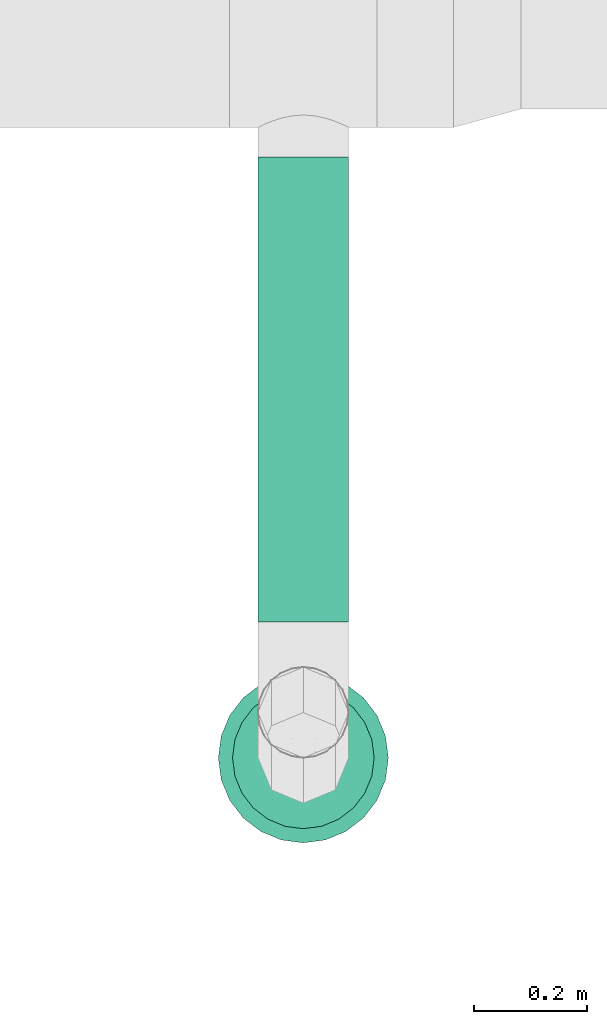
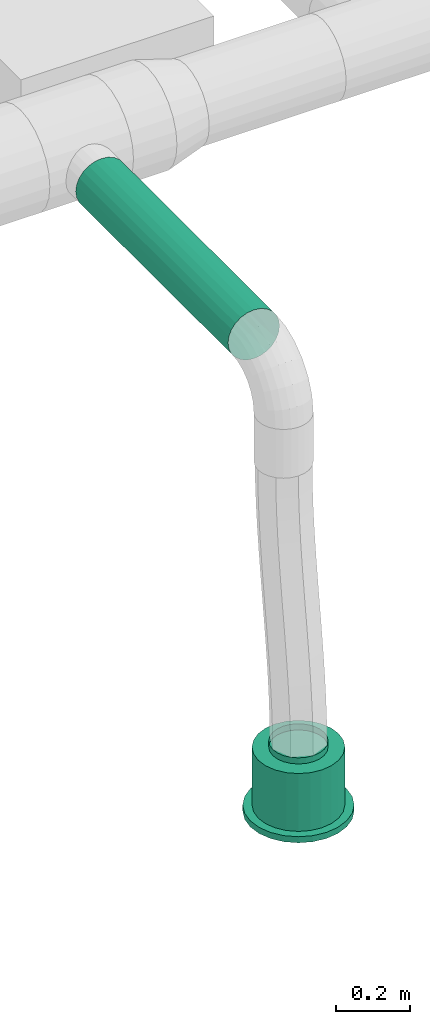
# One storey, part 96 of 374: 1 flow segment, 1 flow terminal.
"""IFC2X3 building model written with IfcOpenShell, lengths in metres."""

from ifc_helpers import new_model, si_unit, direction, origin, place, context, subcontext, project, spatial, open_shell, surface_model, source, transform, mapped, element, save


model = new_model("IFC2X3")

# Units and contexts
model_context = context("Model", 3, precision=1e-05, world=origin(), true_north=direction((-0.4480736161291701, 0.8939966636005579)))
body_context = subcontext(model_context, "Body", "Model", "MODEL_VIEW")
ifc_project = project(units=[si_unit("LENGTHUNIT", "METRE"), si_unit("AREAUNIT", "SQUARE_METRE"), si_unit("VOLUMEUNIT", "CUBIC_METRE"), si_unit("PLANEANGLEUNIT", "RADIAN"), si_unit("THERMODYNAMICTEMPERATUREUNIT", "KELVIN"), si_unit("MASSUNIT", "GRAM", prefix="KILO"), si_unit("TIMEUNIT", "SECOND")], contexts=[model_context])

# Site, building, storey
site_placement = place(None, origin())
site = spatial("IfcSite", under=ifc_project, at=site_placement, Name="Site 1", CompositionType="ELEMENT")
building_placement = place(site_placement, origin())
building = spatial("IfcBuilding", under=site, at=building_placement, Name="Undefined", CompositionType="ELEMENT")
storey_placement = place(building_placement, origin())
storey = spatial("IfcBuildingStorey", under=building, at=storey_placement, Name="Rez de chauss\x8ee", CompositionType="ELEMENT", Elevation=0.0)

# Flow terminal
shared_shape_1 = source(origin(), body_context, "Body", "SurfaceModel", [
    surface_model("IfcFaceBasedSurfaceModel", [(0.0, 0.0, 0.0), (0.03915785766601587, 0.0, 0.0), (0.03915785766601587, 0.020000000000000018, 0.0), (3.552713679e-15, 0.020000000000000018, 0.0), (0.07698144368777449, 0.0, -0.010134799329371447), (0.07698144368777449, 0.020000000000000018, -0.010134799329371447), (0.11089314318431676, 0.0, -0.02971372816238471), (0.11089314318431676, 0.020000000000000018, -0.02971372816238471), (0.13858192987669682, 0.0, -0.05740251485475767), (0.13858192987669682, 0.020000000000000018, -0.05740251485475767), (0.15816085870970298, 0.0, -0.09131421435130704), (0.15816085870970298, 0.020000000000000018, -0.09131421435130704), (0.16829565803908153, 0.0, -0.12913780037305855), (0.16829565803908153, 0.020000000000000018, -0.12913780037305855), (0.16829565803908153, 0.0, -0.16829565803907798), (0.16829565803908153, 0.020000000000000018, -0.16829565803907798), (0.15816085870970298, 0.0, -0.20611924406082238), (0.15816085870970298, 0.020000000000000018, -0.20611924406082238), (0.13858192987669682, 0.0, -0.24003094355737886), (0.13858192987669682, 0.020000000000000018, -0.24003094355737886), (0.11089314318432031, 0.0, -0.2677197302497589), (0.11089314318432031, 0.020000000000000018, -0.2677197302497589), (0.07698144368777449, 0.0, -0.2872986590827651), (0.07698144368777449, 0.020000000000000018, -0.2872986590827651), (0.039157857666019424, 0.0, -0.29743345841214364), (0.039157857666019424, 0.020000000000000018, -0.29743345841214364), (3.552713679e-15, 0.0, -0.29743345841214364), (3.552713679e-15, 0.020000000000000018, -0.29743345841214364), (-0.03782358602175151, 0.0, -0.2872986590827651), (-0.03782358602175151, 0.020000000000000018, -0.2872986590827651), (-0.07173528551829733, 0.0, -0.2677197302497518), (-0.07173528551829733, 0.020000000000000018, -0.2677197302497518), (-0.0994240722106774, 0.0, -0.24003094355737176), (-0.0994240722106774, 0.020000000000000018, -0.24003094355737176), (-0.11900300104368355, 0.0, -0.2061192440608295), (-0.11900300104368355, 0.020000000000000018, -0.2061192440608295), (-0.1291378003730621, 0.0, -0.16829565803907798), (-0.1291378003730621, 0.020000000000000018, -0.16829565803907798), (-0.1291378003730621, 0.0, -0.12913780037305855), (-0.1291378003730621, 0.020000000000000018, -0.12913780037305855), (-0.11900300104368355, 0.0, -0.09131421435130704), (-0.11900300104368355, 0.020000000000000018, -0.09131421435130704), (-0.0994240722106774, 0.0, -0.05740251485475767), (-0.0994240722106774, 0.020000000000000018, -0.05740251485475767), (-0.07173528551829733, 0.0, -0.029713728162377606), (-0.07173528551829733, 0.020000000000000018, -0.029713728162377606), (-0.03782358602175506, 0.0, -0.010134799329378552), (-0.03782358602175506, 0.020000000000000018, -0.010134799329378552), (0.019578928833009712, 0.0, -0.14871672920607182), (0.019578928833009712, 0.020000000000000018, -0.14871672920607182), (0.003263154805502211, 0.020000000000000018, -0.02478612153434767), (0.035894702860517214, 0.020000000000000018, -0.02478612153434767), (0.035894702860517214, 0.20999999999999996, -0.02478612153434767), (0.003263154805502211, 0.20999999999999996, -0.02478612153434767), (0.06741435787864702, 0.020000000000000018, -0.033231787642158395), (0.06741435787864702, 0.20999999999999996, -0.033231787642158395), (0.0956741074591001, 0.020000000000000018, -0.04954756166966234), (0.0956741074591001, 0.20999999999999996, -0.04954756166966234), (0.11874809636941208, 0.020000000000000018, -0.07262155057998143), (0.11874809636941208, 0.20999999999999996, -0.07262155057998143), (0.13506387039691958, 0.020000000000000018, -0.10088130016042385), (0.13506387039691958, 0.20999999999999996, -0.10088130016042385), (0.1435095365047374, 0.020000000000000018, -0.13240095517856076), (0.1435095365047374, 0.20999999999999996, -0.13240095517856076), (0.1435095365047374, 0.020000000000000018, -0.16503250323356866), (0.1435095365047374, 0.20999999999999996, -0.16503250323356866), (0.13506387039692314, 0.020000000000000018, -0.19655215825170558), (0.13506387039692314, 0.20999999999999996, -0.19655215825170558), (0.11874809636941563, 0.020000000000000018, -0.2248119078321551), (0.11874809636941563, 0.20999999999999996, -0.2248119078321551), (0.09567410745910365, 0.020000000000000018, -0.24788589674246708), (0.09567410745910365, 0.20999999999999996, -0.24788589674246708), (0.06741435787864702, 0.020000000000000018, -0.26420167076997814), (0.06741435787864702, 0.20999999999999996, -0.26420167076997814), (0.035894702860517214, 0.020000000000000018, -0.27264733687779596), (0.035894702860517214, 0.20999999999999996, -0.27264733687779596), (0.0032631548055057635, 0.020000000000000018, -0.27264733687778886), (0.0032631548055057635, 0.20999999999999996, -0.27264733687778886), (-0.028256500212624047, 0.020000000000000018, -0.26420167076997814), (-0.028256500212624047, 0.20999999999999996, -0.26420167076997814), (-0.05651624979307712, 0.020000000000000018, -0.2478858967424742), (-0.05651624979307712, 0.20999999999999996, -0.2478858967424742), (-0.07959023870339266, 0.020000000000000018, -0.2248119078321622), (-0.07959023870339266, 0.20999999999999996, -0.2248119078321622), (-0.09590601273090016, 0.020000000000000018, -0.19655215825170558), (-0.09590601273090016, 0.20999999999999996, -0.19655215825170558), (-0.10435167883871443, 0.020000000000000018, -0.16503250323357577), (-0.10435167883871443, 0.20999999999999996, -0.16503250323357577), (-0.10435167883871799, 0.020000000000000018, -0.13240095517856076), (-0.10435167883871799, 0.20999999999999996, -0.13240095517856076), (-0.09590601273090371, 0.020000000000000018, -0.10088130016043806), (-0.09590601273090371, 0.20999999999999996, -0.10088130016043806), (-0.07959023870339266, 0.020000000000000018, -0.07262155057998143), (-0.07959023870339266, 0.20999999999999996, -0.07262155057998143), (-0.056516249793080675, 0.020000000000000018, -0.04954756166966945), (-0.056516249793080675, 0.20999999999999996, -0.04954756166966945), (-0.028256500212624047, 0.020000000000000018, -0.033231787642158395), (-0.028256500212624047, 0.20999999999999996, -0.033231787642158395), (0.019578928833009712, 0.20999999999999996, -0.14871672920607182), (0.009136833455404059, 0.20999999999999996, -0.06940114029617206), (0.030021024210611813, 0.20999999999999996, -0.06940114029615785), (0.030021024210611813, 0.22999999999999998, -0.06940114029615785), (0.009136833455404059, 0.22999999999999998, -0.06940114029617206), (0.05019360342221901, 0.20999999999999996, -0.07480636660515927), (0.05019360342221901, 0.22999999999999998, -0.07480636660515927), (0.06827984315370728, 0.20999999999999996, -0.08524846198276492), (0.06827984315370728, 0.22999999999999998, -0.08524846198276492), (0.0830471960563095, 0.20999999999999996, -0.10001581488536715), (0.0830471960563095, 0.22999999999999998, -0.10001581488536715), (0.0934892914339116, 0.20999999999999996, -0.11810205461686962), (0.0934892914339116, 0.22999999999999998, -0.11810205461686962), (0.09889451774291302, 0.20999999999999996, -0.13827463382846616), (0.09889451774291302, 0.22999999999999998, -0.13827463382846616), (0.09889451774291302, 0.20999999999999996, -0.15915882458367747), (0.09889451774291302, 0.22999999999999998, -0.15915882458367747), (0.09348929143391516, 0.20999999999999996, -0.179331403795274), (0.09348929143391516, 0.22999999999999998, -0.179331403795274), (0.0830471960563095, 0.20999999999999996, -0.19741764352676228), (0.0830471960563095, 0.22999999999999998, -0.19741764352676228), (0.06827984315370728, 0.20999999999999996, -0.2121849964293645), (0.06827984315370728, 0.22999999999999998, -0.2121849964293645), (0.05019360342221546, 0.20999999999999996, -0.22262709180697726), (0.05019360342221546, 0.22999999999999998, -0.22262709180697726), (0.030021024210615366, 0.20999999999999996, -0.22803231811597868), (0.030021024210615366, 0.22999999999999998, -0.22803231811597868), (0.009136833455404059, 0.20999999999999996, -0.22803231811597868), (0.009136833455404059, 0.22999999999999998, -0.22803231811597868), (-0.011035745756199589, 0.20999999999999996, -0.22262709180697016), (-0.011035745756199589, 0.22999999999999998, -0.22262709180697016), (-0.0291219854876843, 0.20999999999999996, -0.2121849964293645), (-0.0291219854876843, 0.22999999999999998, -0.2121849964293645), (-0.043889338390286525, 0.20999999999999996, -0.19741764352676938), (-0.043889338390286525, 0.22999999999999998, -0.19741764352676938), (-0.05433143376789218, 0.20999999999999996, -0.17933140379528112), (-0.05433143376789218, 0.22999999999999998, -0.17933140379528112), (-0.05973666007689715, 0.20999999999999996, -0.15915882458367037), (-0.05973666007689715, 0.22999999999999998, -0.15915882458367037), (-0.0597366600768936, 0.20999999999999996, -0.13827463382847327), (-0.0597366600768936, 0.22999999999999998, -0.13827463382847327), (-0.05433143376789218, 0.20999999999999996, -0.11810205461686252), (-0.05433143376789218, 0.22999999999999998, -0.11810205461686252), (-0.043889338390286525, 0.20999999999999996, -0.10001581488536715), (-0.043889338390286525, 0.22999999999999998, -0.10001581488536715), (-0.02912198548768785, 0.20999999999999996, -0.08524846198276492), (-0.02912198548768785, 0.22999999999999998, -0.08524846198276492), (-0.011035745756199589, 0.20999999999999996, -0.07480636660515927), (-0.011035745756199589, 0.22999999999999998, -0.07480636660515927)], [open_shell([[[0, 1, 2, 3]], [[1, 4, 5, 2]], [[4, 6, 7, 5]], [[6, 8, 9, 7]], [[8, 10, 11, 9]], [[10, 12, 13, 11]], [[12, 14, 15, 13]], [[14, 16, 17, 15]], [[16, 18, 19, 17]], [[18, 20, 21, 19]], [[20, 22, 23, 21]], [[22, 24, 25, 23]], [[24, 26, 27, 25]], [[26, 28, 29, 27]], [[28, 30, 31, 29]], [[30, 32, 33, 31]], [[32, 34, 35, 33]], [[34, 36, 37, 35]], [[36, 38, 39, 37]], [[38, 40, 41, 39]], [[40, 42, 43, 41]], [[42, 44, 45, 43]], [[44, 46, 47, 45]], [[46, 0, 3, 47]], [[48, 1, 0]], [[48, 4, 1]], [[48, 6, 4]], [[48, 8, 6]], [[48, 10, 8]], [[48, 12, 10]], [[48, 14, 12]], [[48, 16, 14]], [[48, 18, 16]], [[48, 20, 18]], [[48, 22, 20]], [[48, 24, 22]], [[48, 26, 24]], [[48, 28, 26]], [[48, 30, 28]], [[48, 32, 30]], [[48, 34, 32]], [[48, 36, 34]], [[48, 38, 36]], [[48, 40, 38]], [[48, 42, 40]], [[48, 44, 42]], [[48, 46, 44]], [[48, 0, 46]], [[49, 47, 3]], [[49, 45, 47]], [[49, 43, 45]], [[49, 41, 43]], [[49, 39, 41]], [[49, 37, 39]], [[49, 35, 37]], [[49, 33, 35]], [[49, 31, 33]], [[49, 29, 31]], [[49, 27, 29]], [[49, 25, 27]], [[49, 23, 25]], [[49, 21, 23]], [[49, 19, 21]], [[49, 17, 19]], [[49, 15, 17]], [[49, 13, 15]], [[49, 11, 13]], [[49, 9, 11]], [[49, 7, 9]], [[49, 5, 7]], [[49, 2, 5]], [[49, 3, 2]], [[50, 51, 52, 53]], [[51, 54, 55, 52]], [[54, 56, 57, 55]], [[56, 58, 59, 57]], [[58, 60, 61, 59]], [[60, 62, 63, 61]], [[62, 64, 65, 63]], [[64, 66, 67, 65]], [[66, 68, 69, 67]], [[68, 70, 71, 69]], [[70, 72, 73, 71]], [[72, 74, 75, 73]], [[74, 76, 77, 75]], [[76, 78, 79, 77]], [[78, 80, 81, 79]], [[80, 82, 83, 81]], [[82, 84, 85, 83]], [[84, 86, 87, 85]], [[86, 88, 89, 87]], [[88, 90, 91, 89]], [[90, 92, 93, 91]], [[92, 94, 95, 93]], [[94, 96, 97, 95]], [[96, 50, 53, 97]], [[49, 51, 50]], [[49, 54, 51]], [[49, 56, 54]], [[49, 58, 56]], [[49, 60, 58]], [[49, 62, 60]], [[49, 64, 62]], [[49, 66, 64]], [[49, 68, 66]], [[49, 70, 68]], [[49, 72, 70]], [[49, 74, 72]], [[49, 76, 74]], [[49, 78, 76]], [[49, 80, 78]], [[49, 82, 80]], [[49, 84, 82]], [[49, 86, 84]], [[49, 88, 86]], [[49, 90, 88]], [[49, 92, 90]], [[49, 94, 92]], [[49, 96, 94]], [[49, 50, 96]], [[98, 97, 53]], [[98, 95, 97]], [[98, 93, 95]], [[98, 91, 93]], [[98, 89, 91]], [[98, 87, 89]], [[98, 85, 87]], [[98, 83, 85]], [[98, 81, 83]], [[98, 79, 81]], [[98, 77, 79]], [[98, 75, 77]], [[98, 73, 75]], [[98, 71, 73]], [[98, 69, 71]], [[98, 67, 69]], [[98, 65, 67]], [[98, 63, 65]], [[98, 61, 63]], [[98, 59, 61]], [[98, 57, 59]], [[98, 55, 57]], [[98, 52, 55]], [[98, 53, 52]], [[99, 100, 101, 102]], [[100, 103, 104, 101]], [[103, 105, 106, 104]], [[105, 107, 108, 106]], [[107, 109, 110, 108]], [[109, 111, 112, 110]], [[111, 113, 114, 112]], [[113, 115, 116, 114]], [[115, 117, 118, 116]], [[117, 119, 120, 118]], [[119, 121, 122, 120]], [[121, 123, 124, 122]], [[123, 125, 126, 124]], [[125, 127, 128, 126]], [[127, 129, 130, 128]], [[129, 131, 132, 130]], [[131, 133, 134, 132]], [[133, 135, 136, 134]], [[135, 137, 138, 136]], [[137, 139, 140, 138]], [[139, 141, 142, 140]], [[141, 143, 144, 142]], [[143, 145, 146, 144]], [[145, 99, 102, 146]]])]),
])
flow_terminal_placement = place(storey_placement, origin())
element("IfcFlowTerminal", 1, at=flow_terminal_placement, inside=storey, Name="Air diffuseur - bouche", ObjectType="Air diffuseur - bouche", context=body_context, shape_type="MappedRepresentation", body=[
    mapped(shared_shape_1, transform((60.2900038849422, 7.104998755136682, 2.38), x_axis=(-0.9914448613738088, -0.13052619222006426, 0.0), y_axis=(0.0, 0.0, 1.0), z_axis=(-0.13052619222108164, 0.9914448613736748, 0.0))),
])

# Flow segment
shared_shape_2 = source(origin(), body_context, "Body", "SurfaceModel", [
    surface_model("IfcFaceBasedSurfaceModel", [(0.0, 0.020884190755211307, 0.0), (0.0, 0.0, 0.0), (0.8200010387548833, 0.0, 4.4408921e-16), (0.8200010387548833, 0.020884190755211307, -4.4408921e-16), (0.0, -0.020172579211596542, -0.005405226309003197), (0.8200010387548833, -0.020172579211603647, -0.005405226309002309), (0.0, -0.03825881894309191, -0.015847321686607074), (0.8200010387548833, -0.038258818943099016, -0.01584732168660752), (0.0, -0.05302617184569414, -0.0306146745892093), (0.8200010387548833, -0.05302617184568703, -0.0306146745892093), (0.0, -0.06346826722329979, -0.04870091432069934), (0.8200010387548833, -0.06346826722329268, -0.04870091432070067), (0.0, -0.06887349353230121, -0.06887349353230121), (0.8200010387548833, -0.06887349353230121, -0.06887349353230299), (0.0, -0.06887349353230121, -0.08975768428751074), (0.8200010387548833, -0.0688734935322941, -0.08975768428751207), (0.0, -0.06346826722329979, -0.10993026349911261), (0.8200010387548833, -0.06346826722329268, -0.10993026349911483), (0.0, -0.05302617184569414, -0.12801650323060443), (0.8200010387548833, -0.05302617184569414, -0.12801650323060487), (0.0, -0.038258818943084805, -0.14278385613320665), (0.8200010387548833, -0.038258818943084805, -0.14278385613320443), (0.0, -0.020172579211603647, -0.15322595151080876), (0.8200010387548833, -0.020172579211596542, -0.15322595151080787), (0.0, 7.105427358e-15, -0.15863117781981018), (0.8200010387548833, 7.105427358e-15, -0.15863117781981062), (0.0, 0.020884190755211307, -0.15863117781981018), (0.8200010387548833, 0.020884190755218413, -0.1586311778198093), (0.0, 0.04105676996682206, -0.15322595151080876), (0.8200010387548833, 0.04105676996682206, -0.15322595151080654), (0.0, 0.05914300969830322, -0.1427838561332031), (0.8200010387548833, 0.05914300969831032, -0.14278385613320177), (0.0, 0.07391036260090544, -0.12801650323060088), (0.8200010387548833, 0.07391036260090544, -0.12801650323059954), (0.0, 0.0843524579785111, -0.10993026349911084), (0.8200010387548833, 0.0843524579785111, -0.10993026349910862), (0.0, 0.08975768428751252, -0.08975768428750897), (0.8200010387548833, 0.08975768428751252, -0.08975768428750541), (0.0, 0.08975768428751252, -0.06887349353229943), (0.8200010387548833, 0.08975768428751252, -0.06887349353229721), (0.0, 0.0843524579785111, -0.048700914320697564), (0.8200010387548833, 0.0843524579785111, -0.04870091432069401), (0.0, 0.07391036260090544, -0.030614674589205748), (0.8200010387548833, 0.07391036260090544, -0.030614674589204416), (0.0, 0.05914300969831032, -0.015847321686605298), (0.8200010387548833, 0.05914300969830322, -0.01584732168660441), (0.0, 0.04105676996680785, -0.005405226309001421), (0.8200010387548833, 0.041056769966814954, -0.005405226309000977)], [open_shell([[[0, 1, 2, 3]], [[1, 4, 5, 2]], [[4, 6, 7, 5]], [[6, 8, 9, 7]], [[8, 10, 11, 9]], [[10, 12, 13, 11]], [[12, 14, 15, 13]], [[14, 16, 17, 15]], [[16, 18, 19, 17]], [[18, 20, 21, 19]], [[20, 22, 23, 21]], [[22, 24, 25, 23]], [[24, 26, 27, 25]], [[26, 28, 29, 27]], [[28, 30, 31, 29]], [[30, 32, 33, 31]], [[32, 34, 35, 33]], [[34, 36, 37, 35]], [[36, 38, 39, 37]], [[38, 40, 41, 39]], [[40, 42, 43, 41]], [[42, 44, 45, 43]], [[44, 46, 47, 45]], [[46, 0, 3, 47]]])]),
])
flow_segment_placement = place(storey_placement, origin())
element("IfcFlowSegment", 2, at=flow_segment_placement, inside=storey, Name="Tube", ObjectType="Tube", context=body_context, shape_type="MappedRepresentation", body=[
    mapped(shared_shape_2, transform((60.269298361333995, 8.014999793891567, 3.877274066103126), x_axis=(0.0, -1.0, 0.0), y_axis=(0.9914448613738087, 0.0, 0.13052619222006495), z_axis=(-0.13052619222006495, 0.0, 0.9914448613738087))),
])

save(model, "model.ifc")
